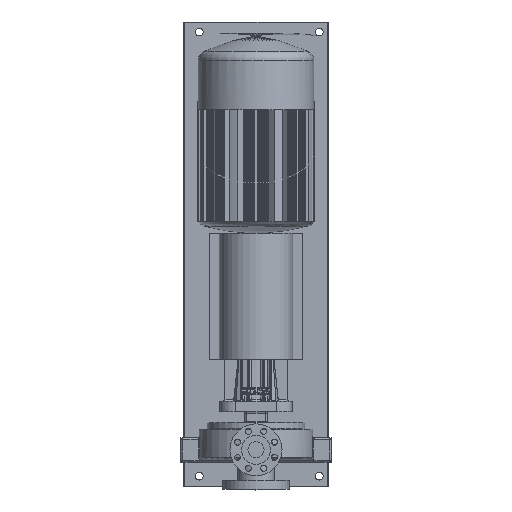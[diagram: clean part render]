
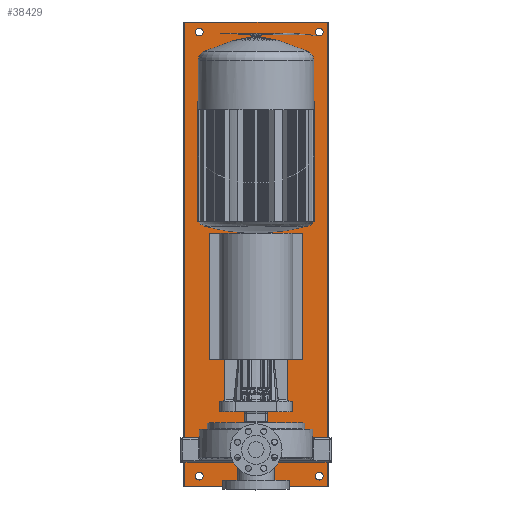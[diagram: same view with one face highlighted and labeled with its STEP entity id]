
A CAD part, top view. The second image highlights one B-rep face of the part: STEP entity #38429.
In plain terms, the highlighted planar face has unit normal (0, 0, 1).
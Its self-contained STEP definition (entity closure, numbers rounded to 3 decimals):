
#898=LINE('',#51980,#3477);
#902=LINE('',#51988,#3481);
#1434=LINE('',#61075,#4013);
#1435=LINE('',#61078,#4014);
#1436=LINE('',#61080,#4015);
#1437=LINE('',#61082,#4016);
#1438=LINE('',#61087,#4017);
#1439=LINE('',#61089,#4018);
#1440=LINE('',#61091,#4019);
#1441=LINE('',#61092,#4020);
#1442=LINE('',#61094,#4021);
#1443=LINE('',#61096,#4022);
#1444=LINE('',#61097,#4023);
#1445=LINE('',#61100,#4024);
#1446=LINE('',#61102,#4025);
#1447=LINE('',#61104,#4026);
#1448=LINE('',#61105,#4027);
#1449=LINE('',#61108,#4028);
#1450=LINE('',#61110,#4029);
#1451=LINE('',#61112,#4030);
#1452=LINE('',#61113,#4031);
#1453=LINE('',#61116,#4032);
#1454=LINE('',#61118,#4033);
#1455=LINE('',#61120,#4034);
#3477=VECTOR('',#42546,1000.);
#3481=VECTOR('',#42550,1000.);
#4013=VECTOR('',#44416,1000.);
#4014=VECTOR('',#44417,1000.);
#4015=VECTOR('',#44418,1000.);
#4016=VECTOR('',#44419,1000.);
#4017=VECTOR('',#44424,1000.);
#4018=VECTOR('',#44425,1000.);
#4019=VECTOR('',#44426,1000.);
#4020=VECTOR('',#44427,1000.);
#4021=VECTOR('',#44428,1000.);
#4022=VECTOR('',#44429,1000.);
#4023=VECTOR('',#44430,1000.);
#4024=VECTOR('',#44431,1000.);
#4025=VECTOR('',#44432,1000.);
#4026=VECTOR('',#44433,1000.);
#4027=VECTOR('',#44434,1000.);
#4028=VECTOR('',#44435,1000.);
#4029=VECTOR('',#44436,1000.);
#4030=VECTOR('',#44437,1000.);
#4031=VECTOR('',#44438,1000.);
#4032=VECTOR('',#44439,1000.);
#4033=VECTOR('',#44440,1000.);
#4034=VECTOR('',#44441,1000.);
#8326=ORIENTED_EDGE('',*,*,#15362,.T.);
#8327=ORIENTED_EDGE('',*,*,#15363,.T.);
#8328=ORIENTED_EDGE('',*,*,#15364,.T.);
#8329=ORIENTED_EDGE('',*,*,#15365,.T.);
#8330=ORIENTED_EDGE('',*,*,#15366,.F.);
#8331=ORIENTED_EDGE('',*,*,#15367,.T.);
#8332=ORIENTED_EDGE('',*,*,#15368,.T.);
#8333=ORIENTED_EDGE('',*,*,#15369,.T.);
#8334=ORIENTED_EDGE('',*,*,#14262,.T.);
#8335=ORIENTED_EDGE('',*,*,#15370,.T.);
#8336=ORIENTED_EDGE('',*,*,#15371,.T.);
#8337=ORIENTED_EDGE('',*,*,#15372,.T.);
#8338=ORIENTED_EDGE('',*,*,#14258,.F.);
#8339=ORIENTED_EDGE('',*,*,#15373,.T.);
#8340=ORIENTED_EDGE('',*,*,#15374,.F.);
#8341=ORIENTED_EDGE('',*,*,#15375,.T.);
#8342=ORIENTED_EDGE('',*,*,#15376,.F.);
#8343=ORIENTED_EDGE('',*,*,#15377,.F.);
#8344=ORIENTED_EDGE('',*,*,#15378,.T.);
#8345=ORIENTED_EDGE('',*,*,#15379,.F.);
#8346=ORIENTED_EDGE('',*,*,#15380,.T.);
#8347=ORIENTED_EDGE('',*,*,#15381,.T.);
#8348=ORIENTED_EDGE('',*,*,#15382,.T.);
#8349=ORIENTED_EDGE('',*,*,#15383,.T.);
#8350=ORIENTED_EDGE('',*,*,#15384,.T.);
#8351=ORIENTED_EDGE('',*,*,#15385,.T.);
#8352=ORIENTED_EDGE('',*,*,#15386,.T.);
#8353=ORIENTED_EDGE('',*,*,#15387,.T.);
#14258=EDGE_CURVE('',#18295,#18296,#898,.T.);
#14262=EDGE_CURVE('',#18300,#18299,#902,.T.);
#15362=EDGE_CURVE('',#18948,#18948,#20973,.F.);
#15363=EDGE_CURVE('',#18949,#18949,#20974,.F.);
#15364=EDGE_CURVE('',#18950,#18951,#1434,.T.);
#15365=EDGE_CURVE('',#18951,#18952,#1435,.T.);
#15366=EDGE_CURVE('',#18953,#18952,#1436,.T.);
#15367=EDGE_CURVE('',#18953,#18950,#1437,.F.);
#15368=EDGE_CURVE('',#18954,#18954,#20975,.F.);
#15369=EDGE_CURVE('',#18955,#18955,#20976,.F.);
#15370=EDGE_CURVE('',#18299,#18956,#1438,.T.);
#15371=EDGE_CURVE('',#18956,#18957,#1439,.T.);
#15372=EDGE_CURVE('',#18957,#18300,#1440,.T.);
#15373=EDGE_CURVE('',#18295,#18958,#1441,.T.);
#15374=EDGE_CURVE('',#18959,#18958,#1442,.T.);
#15375=EDGE_CURVE('',#18959,#18296,#1443,.T.);
#15376=EDGE_CURVE('',#18960,#18961,#1444,.T.);
#15377=EDGE_CURVE('',#18962,#18960,#1445,.T.);
#15378=EDGE_CURVE('',#18962,#18963,#1446,.T.);
#15379=EDGE_CURVE('',#18961,#18963,#1447,.T.);
#15380=EDGE_CURVE('',#18964,#18965,#1448,.T.);
#15381=EDGE_CURVE('',#18965,#18966,#1449,.T.);
#15382=EDGE_CURVE('',#18966,#18967,#1450,.T.);
#15383=EDGE_CURVE('',#18967,#18964,#1451,.T.);
#15384=EDGE_CURVE('',#18968,#18969,#1452,.T.);
#15385=EDGE_CURVE('',#18969,#18970,#1453,.T.);
#15386=EDGE_CURVE('',#18970,#18971,#1454,.T.);
#15387=EDGE_CURVE('',#18971,#18968,#1455,.T.);
#18295=VERTEX_POINT('',#51979);
#18296=VERTEX_POINT('',#51981);
#18299=VERTEX_POINT('',#51987);
#18300=VERTEX_POINT('',#51989);
#18948=VERTEX_POINT('',#61072);
#18949=VERTEX_POINT('',#61074);
#18950=VERTEX_POINT('',#61076);
#18951=VERTEX_POINT('',#61077);
#18952=VERTEX_POINT('',#61079);
#18953=VERTEX_POINT('',#61081);
#18954=VERTEX_POINT('',#61084);
#18955=VERTEX_POINT('',#61086);
#18956=VERTEX_POINT('',#61088);
#18957=VERTEX_POINT('',#61090);
#18958=VERTEX_POINT('',#61093);
#18959=VERTEX_POINT('',#61095);
#18960=VERTEX_POINT('',#61098);
#18961=VERTEX_POINT('',#61099);
#18962=VERTEX_POINT('',#61101);
#18963=VERTEX_POINT('',#61103);
#18964=VERTEX_POINT('',#61106);
#18965=VERTEX_POINT('',#61107);
#18966=VERTEX_POINT('',#61109);
#18967=VERTEX_POINT('',#61111);
#18968=VERTEX_POINT('',#61114);
#18969=VERTEX_POINT('',#61115);
#18970=VERTEX_POINT('',#61117);
#18971=VERTEX_POINT('',#61119);
#20973=CIRCLE('',#40339,12.5);
#20974=CIRCLE('',#40340,12.5);
#20975=CIRCLE('',#40341,12.5);
#20976=CIRCLE('',#40342,12.5);
#22381=EDGE_LOOP('',(#8326));
#22382=EDGE_LOOP('',(#8327));
#22383=EDGE_LOOP('',(#8328,#8329,#8330,#8331));
#22384=EDGE_LOOP('',(#8332));
#22385=EDGE_LOOP('',(#8333));
#22386=EDGE_LOOP('',(#8334,#8335,#8336,#8337));
#22387=EDGE_LOOP('',(#8338,#8339,#8340,#8341));
#22388=EDGE_LOOP('',(#8342,#8343,#8344,#8345));
#22389=EDGE_LOOP('',(#8346,#8347,#8348,#8349));
#22390=EDGE_LOOP('',(#8350,#8351,#8352,#8353));
#24141=FACE_BOUND('',#22381,.T.);
#24142=FACE_BOUND('',#22382,.T.);
#24143=FACE_BOUND('',#22383,.T.);
#24144=FACE_BOUND('',#22384,.T.);
#24145=FACE_BOUND('',#22385,.T.);
#24146=FACE_BOUND('',#22386,.T.);
#24147=FACE_BOUND('',#22387,.T.);
#24148=FACE_BOUND('',#22388,.T.);
#24149=FACE_BOUND('',#22389,.T.);
#24150=FACE_BOUND('',#22390,.T.);
#25481=PLANE('',#40338);
#38429=ADVANCED_FACE('',(#24141,#24142,#24143,#24144,#24145,#24146,#24147,
#24148,#24149,#24150),#25481,.T.);
#40338=AXIS2_PLACEMENT_3D('',#61070,#44410,#44411);
#40339=AXIS2_PLACEMENT_3D('',#61071,#44412,#44413);
#40340=AXIS2_PLACEMENT_3D('',#61073,#44414,#44415);
#40341=AXIS2_PLACEMENT_3D('',#61083,#44420,#44421);
#40342=AXIS2_PLACEMENT_3D('',#61085,#44422,#44423);
#42546=DIRECTION('',(1.,0.,0.));
#42550=DIRECTION('',(-1.,0.,0.));
#44410=DIRECTION('',(0.,0.,1.));
#44411=DIRECTION('',(1.,0.,0.));
#44412=DIRECTION('',(0.,0.,1.));
#44413=DIRECTION('',(1.,0.,0.));
#44414=DIRECTION('',(0.,0.,1.));
#44415=DIRECTION('',(1.,0.,0.));
#44416=DIRECTION('',(-1.,0.,0.));
#44417=DIRECTION('',(0.,-1.,0.));
#44418=DIRECTION('',(-1.,0.,0.));
#44419=DIRECTION('',(0.,-1.,0.));
#44420=DIRECTION('',(0.,0.,1.));
#44421=DIRECTION('',(1.,0.,0.));
#44422=DIRECTION('',(0.,0.,1.));
#44423=DIRECTION('',(1.,0.,0.));
#44424=DIRECTION('',(0.,1.,0.));
#44425=DIRECTION('',(1.,0.,0.));
#44426=DIRECTION('',(0.,-1.,0.));
#44427=DIRECTION('',(0.,1.,0.));
#44428=DIRECTION('',(-1.,0.,0.));
#44429=DIRECTION('',(0.,-1.,0.));
#44430=DIRECTION('',(1.,0.,0.));
#44431=DIRECTION('',(0.,-1.,0.));
#44432=DIRECTION('',(1.,0.,0.));
#44433=DIRECTION('',(0.,1.,0.));
#44434=DIRECTION('',(-1.,0.,0.));
#44435=DIRECTION('',(0.,1.,0.));
#44436=DIRECTION('',(1.,0.,0.));
#44437=DIRECTION('',(0.,-1.,0.));
#44438=DIRECTION('',(0.,-1.,0.));
#44439=DIRECTION('',(-1.,0.,0.));
#44440=DIRECTION('',(0.,1.,0.));
#44441=DIRECTION('',(1.,0.,0.));
#51979=CARTESIAN_POINT('',(-148.947,-38.,-254.));
#51980=CARTESIAN_POINT('',(-148.947,-38.,-254.));
#51981=CARTESIAN_POINT('',(-98.947,-38.,-254.));
#51987=CARTESIAN_POINT('',(98.703,-38.,-254.));
#51988=CARTESIAN_POINT('',(-228.6,-38.,-254.));
#51989=CARTESIAN_POINT('',(148.703,-38.,-254.));
#61070=CARTESIAN_POINT('',(-228.6,1358.9,-254.));
#61071=CARTESIAN_POINT('',(-180.46,1327.1,-254.));
#61072=CARTESIAN_POINT('',(-167.96,1327.1,-254.));
#61073=CARTESIAN_POINT('',(200.5,-82.5,-254.));
#61074=CARTESIAN_POINT('',(213.,-82.5,-254.));
#61075=CARTESIAN_POINT('',(-228.6,1358.9,-254.));
#61076=CARTESIAN_POINT('',(225.6,1358.9,-254.));
#61077=CARTESIAN_POINT('',(-225.6,1358.9,-254.));
#61078=CARTESIAN_POINT('',(-225.6,1358.9,-254.));
#61079=CARTESIAN_POINT('',(-225.6,-114.3,-254.));
#61080=CARTESIAN_POINT('',(-228.6,-114.3,-254.));
#61081=CARTESIAN_POINT('',(225.6,-114.3,-254.));
#61082=CARTESIAN_POINT('',(225.6,1358.9,-254.));
#61083=CARTESIAN_POINT('',(-180.46,-82.5,-254.));
#61084=CARTESIAN_POINT('',(-167.96,-82.5,-254.));
#61085=CARTESIAN_POINT('',(200.5,1327.1,-254.));
#61086=CARTESIAN_POINT('',(213.,1327.1,-254.));
#61087=CARTESIAN_POINT('',(98.703,1358.9,-254.));
#61088=CARTESIAN_POINT('',(98.703,38.2,-254.));
#61089=CARTESIAN_POINT('',(98.703,38.2,-254.));
#61090=CARTESIAN_POINT('',(148.703,38.2,-254.));
#61091=CARTESIAN_POINT('',(148.703,1358.9,-254.));
#61092=CARTESIAN_POINT('',(-148.947,1358.9,-254.));
#61093=CARTESIAN_POINT('',(-148.947,38.2,-254.));
#61094=CARTESIAN_POINT('',(-228.6,38.2,-254.));
#61095=CARTESIAN_POINT('',(-98.947,38.2,-254.));
#61096=CARTESIAN_POINT('',(-98.947,1358.9,-254.));
#61097=CARTESIAN_POINT('',(-228.6,287.95,-254.));
#61098=CARTESIAN_POINT('',(-146.5,287.95,-254.));
#61099=CARTESIAN_POINT('',(146.5,287.95,-254.));
#61100=CARTESIAN_POINT('',(-146.5,1358.9,-254.));
#61101=CARTESIAN_POINT('',(-146.5,687.95,-254.));
#61102=CARTESIAN_POINT('',(-228.6,687.95,-254.));
#61103=CARTESIAN_POINT('',(146.5,687.95,-254.));
#61104=CARTESIAN_POINT('',(146.5,1358.9,-254.));
#61105=CARTESIAN_POINT('',(-133.35,787.4,-254.));
#61106=CARTESIAN_POINT('',(-133.35,787.4,-254.));
#61107=CARTESIAN_POINT('',(-184.15,787.4,-254.));
#61108=CARTESIAN_POINT('',(-184.15,787.4,-254.));
#61109=CARTESIAN_POINT('',(-184.15,1104.9,-254.));
#61110=CARTESIAN_POINT('',(-184.15,1104.9,-254.));
#61111=CARTESIAN_POINT('',(-133.35,1104.9,-254.));
#61112=CARTESIAN_POINT('',(-133.35,1104.9,-254.));
#61113=CARTESIAN_POINT('',(184.15,1104.9,-254.));
#61114=CARTESIAN_POINT('',(184.15,1104.9,-254.));
#61115=CARTESIAN_POINT('',(184.15,787.4,-254.));
#61116=CARTESIAN_POINT('',(184.15,787.4,-254.));
#61117=CARTESIAN_POINT('',(133.35,787.4,-254.));
#61118=CARTESIAN_POINT('',(133.35,787.4,-254.));
#61119=CARTESIAN_POINT('',(133.35,1104.9,-254.));
#61120=CARTESIAN_POINT('',(133.35,1104.9,-254.));
